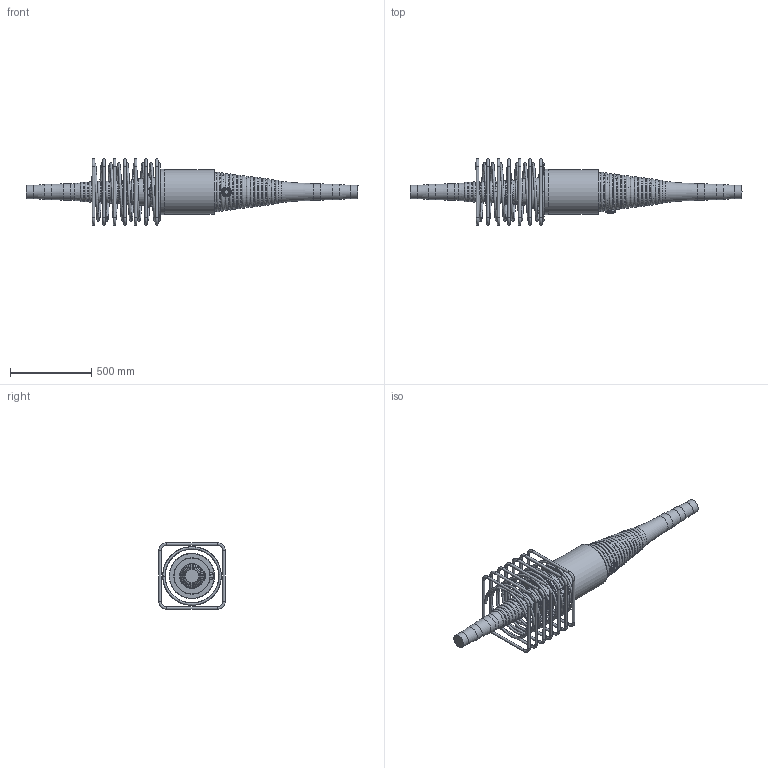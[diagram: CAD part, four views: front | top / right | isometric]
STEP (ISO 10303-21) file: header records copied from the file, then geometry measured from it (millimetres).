
FILE_DESCRIPTION(/* description */ (''),/* implementation_level */ '2;1');
FILE_NAME(/* name */ 'BBR VT CONA CMI BT 1906_Coupler H Assembly_CS-34,28.stp',/* time_stamp */ '2024-10-29T14:04:28+01:00',/* author */ ('tk'),/* organization */ (''),/* preprocessor_version */ 'ST-DEVELOPER v20',/* originating_system */ 'Autodesk Inventor 2024',/* authorisation */ '');
FILE_SCHEMA (('AUTOMOTIVE_DESIGN { 1 0 10303 214 3 1 1 }'));
Products named in the file (1): BBR VT CONA CMI BT 1906_Coupler H Assembly_CS-34,28
Bounding box: 2045.13 x 410 x 410 mm (x, y, z)
Volume: 50190927.7 mm3; surface area: 2137009 mm2
Topology: 9 solids, 10 shells, 993 faces, 2652 edges, 1725 vertices
Faces by surface type: bspline 395, plane 304, torus 137, cylinder 113, cone 34, sphere 10
Full cylindrical faces by diameter (mm): 16 x28, 34 x2, 57 x2, 84 x2, 94 x2, 104 x2, 164 x1, 218 x1, 223.017 x1, 273 x1, 280 x1
Entity records: 46358 total; most frequent: CARTESIAN_POINT 23157, ORIENTED_EDGE 5284, DIRECTION 3895, EDGE_CURVE 2642, VERTEX_POINT 1725, AXIS2_PLACEMENT_3D 1458, EDGE_LOOP 1065, FACE_OUTER_BOUND 993
